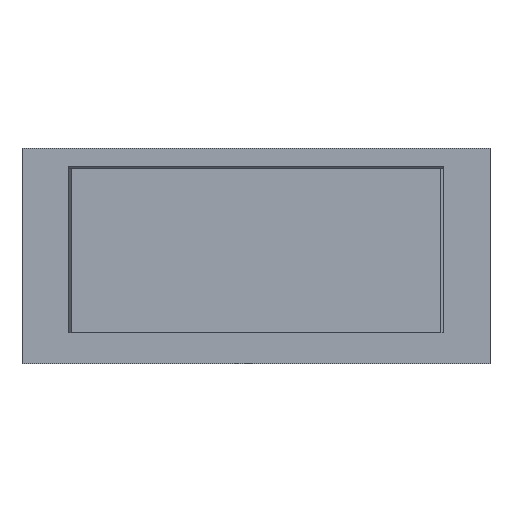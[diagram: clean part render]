
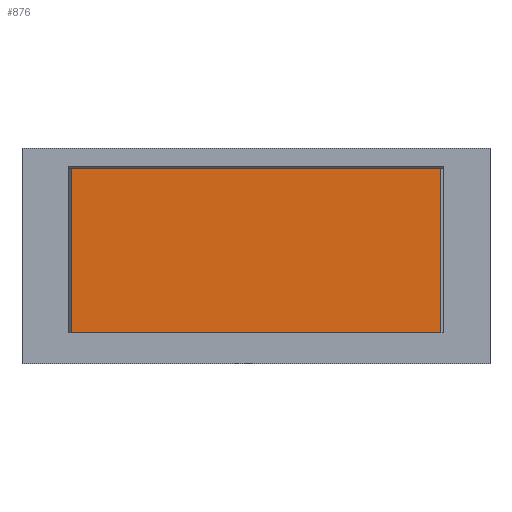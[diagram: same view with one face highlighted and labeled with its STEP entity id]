
A CAD part, front view. The second image highlights one B-rep face of the part: STEP entity #876.
In plain terms, the highlighted planar face has unit normal (0, -1, 0).
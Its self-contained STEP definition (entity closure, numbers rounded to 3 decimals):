
#876 = ADVANCED_FACE('',(#877),#891,.F.);
#877 = FACE_BOUND('',#878,.F.);
#878 = EDGE_LOOP('',(#879,#914,#942,#968));
#879 = ORIENTED_EDGE('',*,*,#880,.F.);
#880 = EDGE_CURVE('',#881,#883,#885,.T.);
#881 = VERTEX_POINT('',#882);
#882 = CARTESIAN_POINT('',(-30.,0.,5.));
#883 = VERTEX_POINT('',#884);
#884 = CARTESIAN_POINT('',(30.,0.,5.));
#885 = SURFACE_CURVE('',#886,(#890,#902),.PCURVE_S1.);
#886 = LINE('',#887,#888);
#887 = CARTESIAN_POINT('',(-30.,0.,5.));
#888 = VECTOR('',#889,1.);
#889 = DIRECTION('',(1.,0.,0.));
#890 = PCURVE('',#891,#896);
#891 = PLANE('',#892);
#892 = AXIS2_PLACEMENT_3D('',#893,#894,#895);
#893 = CARTESIAN_POINT('',(-30.,0.,5.));
#894 = DIRECTION('',(0.,1.,0.));
#895 = DIRECTION('',(1.,0.,0.));
#896 = DEFINITIONAL_REPRESENTATION('',(#897),#901);
#897 = LINE('',#898,#899);
#898 = CARTESIAN_POINT('',(0.,0.));
#899 = VECTOR('',#900,1.);
#900 = DIRECTION('',(1.,0.));
#901 = ( GEOMETRIC_REPRESENTATION_CONTEXT(2) 
PARAMETRIC_REPRESENTATION_CONTEXT() REPRESENTATION_CONTEXT('2D SPACE',''
  ) );
#902 = PCURVE('',#903,#908);
#903 = PLANE('',#904);
#904 = AXIS2_PLACEMENT_3D('',#905,#906,#907);
#905 = CARTESIAN_POINT('',(0.,1.886,5.));
#906 = DIRECTION('',(0.,0.,1.));
#907 = DIRECTION('',(1.,0.,-0.));
#908 = DEFINITIONAL_REPRESENTATION('',(#909),#913);
#909 = LINE('',#910,#911);
#910 = CARTESIAN_POINT('',(-30.,-1.886));
#911 = VECTOR('',#912,1.);
#912 = DIRECTION('',(1.,0.));
#913 = ( GEOMETRIC_REPRESENTATION_CONTEXT(2) 
PARAMETRIC_REPRESENTATION_CONTEXT() REPRESENTATION_CONTEXT('2D SPACE',''
  ) );
#914 = ORIENTED_EDGE('',*,*,#915,.T.);
#915 = EDGE_CURVE('',#881,#916,#918,.T.);
#916 = VERTEX_POINT('',#917);
#917 = CARTESIAN_POINT('',(-30.,0.,31.7));
#918 = SURFACE_CURVE('',#919,(#923,#930),.PCURVE_S1.);
#919 = LINE('',#920,#921);
#920 = CARTESIAN_POINT('',(-30.,0.,5.));
#921 = VECTOR('',#922,1.);
#922 = DIRECTION('',(0.,0.,1.));
#923 = PCURVE('',#891,#924);
#924 = DEFINITIONAL_REPRESENTATION('',(#925),#929);
#925 = LINE('',#926,#927);
#926 = CARTESIAN_POINT('',(0.,0.));
#927 = VECTOR('',#928,1.);
#928 = DIRECTION('',(0.,-1.));
#929 = ( GEOMETRIC_REPRESENTATION_CONTEXT(2) 
PARAMETRIC_REPRESENTATION_CONTEXT() REPRESENTATION_CONTEXT('2D SPACE',''
  ) );
#930 = PCURVE('',#931,#936);
#931 = PLANE('',#932);
#932 = AXIS2_PLACEMENT_3D('',#933,#934,#935);
#933 = CARTESIAN_POINT('',(-30.,1.15,5.));
#934 = DIRECTION('',(1.,0.,-0.));
#935 = DIRECTION('',(0.,-1.,0.));
#936 = DEFINITIONAL_REPRESENTATION('',(#937),#941);
#937 = LINE('',#938,#939);
#938 = CARTESIAN_POINT('',(1.15,0.));
#939 = VECTOR('',#940,1.);
#940 = DIRECTION('',(0.,-1.));
#941 = ( GEOMETRIC_REPRESENTATION_CONTEXT(2) 
PARAMETRIC_REPRESENTATION_CONTEXT() REPRESENTATION_CONTEXT('2D SPACE',''
  ) );
#942 = ORIENTED_EDGE('',*,*,#943,.F.);
#943 = EDGE_CURVE('',#944,#916,#946,.T.);
#944 = VERTEX_POINT('',#945);
#945 = CARTESIAN_POINT('',(30.,0.,31.7));
#946 = SURFACE_CURVE('',#947,(#951,#957),.PCURVE_S1.);
#947 = LINE('',#948,#949);
#948 = CARTESIAN_POINT('',(-35.,0.,31.7));
#949 = VECTOR('',#950,1.);
#950 = DIRECTION('',(-1.,0.,0.));
#951 = PCURVE('',#891,#952);
#952 = DEFINITIONAL_REPRESENTATION('',(#953),#956);
#953 = B_SPLINE_CURVE_WITH_KNOTS('',1,(#954,#955),.UNSPECIFIED.,.F.,.F.,
  (2,2),(-65.,-5.),.PIECEWISE_BEZIER_KNOTS.);
#954 = CARTESIAN_POINT('',(60.,-26.7));
#955 = CARTESIAN_POINT('',(0.,-26.7));
#956 = ( GEOMETRIC_REPRESENTATION_CONTEXT(2) 
PARAMETRIC_REPRESENTATION_CONTEXT() REPRESENTATION_CONTEXT('2D SPACE',''
  ) );
#957 = PCURVE('',#958,#963);
#958 = PLANE('',#959);
#959 = AXIS2_PLACEMENT_3D('',#960,#961,#962);
#960 = CARTESIAN_POINT('',(-40.,1.5,31.7));
#961 = DIRECTION('',(0.,0.,-1.));
#962 = DIRECTION('',(0.,-1.,0.));
#963 = DEFINITIONAL_REPRESENTATION('',(#964),#967);
#964 = B_SPLINE_CURVE_WITH_KNOTS('',1,(#965,#966),.UNSPECIFIED.,.F.,.F.,
  (2,2),(-65.,-5.),.PIECEWISE_BEZIER_KNOTS.);
#965 = CARTESIAN_POINT('',(1.5,-70.));
#966 = CARTESIAN_POINT('',(1.5,-10.));
#967 = ( GEOMETRIC_REPRESENTATION_CONTEXT(2) 
PARAMETRIC_REPRESENTATION_CONTEXT() REPRESENTATION_CONTEXT('2D SPACE',''
  ) );
#968 = ORIENTED_EDGE('',*,*,#969,.F.);
#969 = EDGE_CURVE('',#883,#944,#970,.T.);
#970 = SURFACE_CURVE('',#971,(#975,#982),.PCURVE_S1.);
#971 = LINE('',#972,#973);
#972 = CARTESIAN_POINT('',(30.,0.,5.));
#973 = VECTOR('',#974,1.);
#974 = DIRECTION('',(0.,0.,1.));
#975 = PCURVE('',#891,#976);
#976 = DEFINITIONAL_REPRESENTATION('',(#977),#981);
#977 = LINE('',#978,#979);
#978 = CARTESIAN_POINT('',(60.,0.));
#979 = VECTOR('',#980,1.);
#980 = DIRECTION('',(0.,-1.));
#981 = ( GEOMETRIC_REPRESENTATION_CONTEXT(2) 
PARAMETRIC_REPRESENTATION_CONTEXT() REPRESENTATION_CONTEXT('2D SPACE',''
  ) );
#982 = PCURVE('',#983,#988);
#983 = PLANE('',#984);
#984 = AXIS2_PLACEMENT_3D('',#985,#986,#987);
#985 = CARTESIAN_POINT('',(30.,0.,5.));
#986 = DIRECTION('',(-1.,0.,0.));
#987 = DIRECTION('',(0.,1.,0.));
#988 = DEFINITIONAL_REPRESENTATION('',(#989),#993);
#989 = LINE('',#990,#991);
#990 = CARTESIAN_POINT('',(0.,0.));
#991 = VECTOR('',#992,1.);
#992 = DIRECTION('',(0.,-1.));
#993 = ( GEOMETRIC_REPRESENTATION_CONTEXT(2) 
PARAMETRIC_REPRESENTATION_CONTEXT() REPRESENTATION_CONTEXT('2D SPACE',''
  ) );
